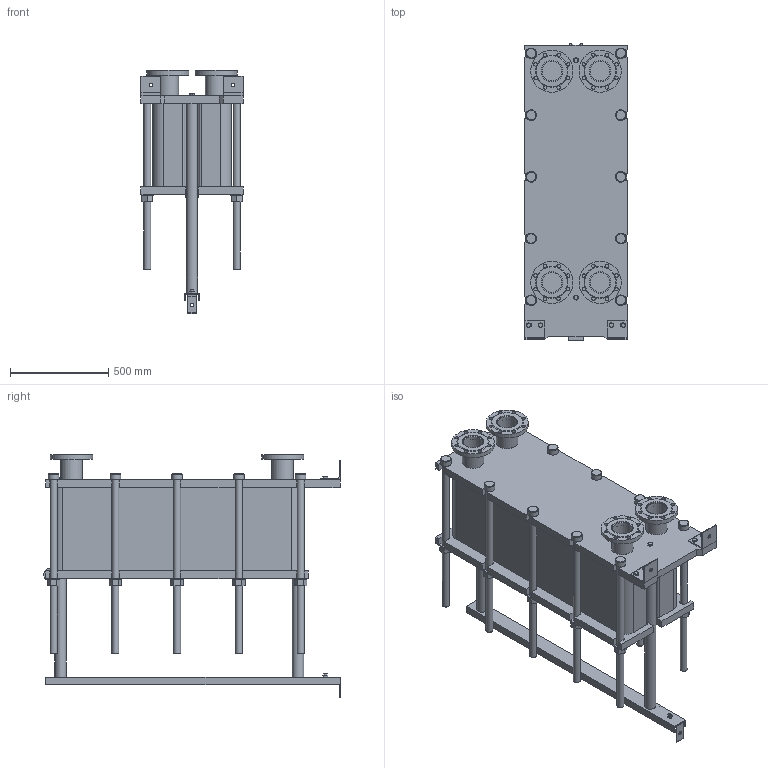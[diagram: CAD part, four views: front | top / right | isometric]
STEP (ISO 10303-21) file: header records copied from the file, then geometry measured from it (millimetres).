
FILE_DESCRIPTION(/* description */ (''),/* implementation_level */ '2;1');
FILE_NAME(/* name */ 'C:\Users\zhuro\Desktop\ENCO\TO\ЭН-04\ЭН-0,5-04-123-1.stp',/* time_stamp */ '2022-06-06T10:56:23+03:00',/* author */ ('zhuro'),/* organization */ (''),/* preprocessor_version */ 'ST-DEVELOPER v18.1',/* originating_system */ 'Autodesk Inventor 2022',/* authorisation */ '');
FILE_SCHEMA (('AUTOMOTIVE_DESIGN { 1 0 10303 214 3 1 1 }'));
Length unit declared in the file: millimetre
Products named in the file (1): ЭН-0,5-04-123-1
Bounding box: 520 x 1510 x 1241.5 mm (x, y, z)
Volume: 284515463 mm3; surface area: 8861034.1 mm2
Topology: 45 solids, 45 shells, 668 faces, 1611 edges, 1048 vertices
Faces by surface type: plane 457, cylinder 166, cone 39, torus 6
Full cylindrical faces by diameter (mm): 8 x4, 10 x2, 16 x8, 18 x35, 36 x25, 40 x2, 42 x1, 45 x4, 54 x10, 57 x2, 60 x10, 68 x2, 100 x4, 110 x8, 215 x4
Entity records: 23607 total; most frequent: CARTESIAN_POINT 7348, DIRECTION 3371, ORIENTED_EDGE 3142, EDGE_CURVE 1571, AXIS2_PLACEMENT_3D 1199, VERTEX_POINT 1044, LINE 973, VECTOR 973
